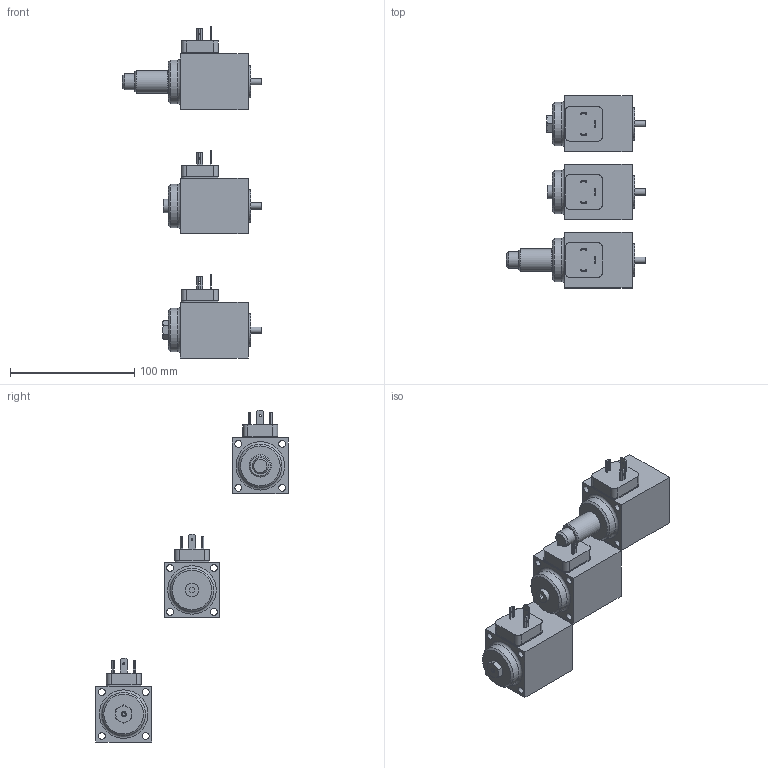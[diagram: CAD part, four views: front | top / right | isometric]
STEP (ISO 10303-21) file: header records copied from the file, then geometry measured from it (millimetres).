
FILE_DESCRIPTION(('Bauteilbeschreibung','HiCAD-Model','HiCAD-STEP-TRANSLATION','Bauteilbeschreibung'),'2;1');
FILE_NAME('K:/STEP_DXF/PI45V.STP','2006-05-12T14:03:25+00:00',('Konstrukteur'),('Konstrukteur Firma GmbH'),'HiCAD3 V1210 STEP 1.6.2005','HiCAD3 V1210','confidential');
FILE_SCHEMA(('AUTOMOTIVE_DESIGN { 1 2 10303 214 0 1 1 1 }'));
Length unit declared in the file: millimetre
Products named in the file (22): PI45V; PI45V_H1; CDAAEE0E; DAB12417; DAB124170; DICHTUNG; A270342B; A1706669; PI45V_HB0; AB38F80E; DAB124171; DAB124172; DICHTUNG0; A17066690; F134825D; PI45V_H6; AC37BFA3; DAB124173; DAB124174; DICHTUNG1; A17066691; CF9A8A47
Assembly tree (21 placements, depth 5):
  PI45V
    PI45V_H1
      CDAAEE0E
        DAB12417
        DAB124170
          DICHTUNG
        A270342B
        A1706669
    PI45V_HB0
      AB38F80E
        DAB124171
        DAB124172
          DICHTUNG0
        A17066690
        F134825D
    PI45V_H6
      AC37BFA3
        DAB124173
        DAB124174
          DICHTUNG1
        A17066691
        CF9A8A47
Bounding box: 112.4 x 155 x 267.5 mm (x, y, z)
Volume: 378026.3 mm3; surface area: 77641.3 mm2
Topology: 21 solids, 21 shells, 341 faces, 797 edges, 538 vertices
Faces by surface type: plane 196, cylinder 113, cone 24, torus 8
Full cylindrical faces by diameter (mm): 1.5 x9, 2.5 x1, 3 x9, 4.2 x1, 4.9 x3, 5.5 x12, 6 x1, 6.8 x5, 8 x6, 9 x3, 11 x1, 12 x3, 13 x1, 15 x3, 18 x1, 26 x3, 35 x3
Entity records: 16120 total; most frequent: CARTESIAN_POINT 2027, DIRECTION 1666, ORIENTED_EDGE 1338, COLOUR_RGB 1022, PRESENTATION_STYLE_ASSIGNMENT 1022, OVER_RIDING_STYLED_ITEM 1010, CURVE_STYLE 669, DRAUGHTING_PRE_DEFINED_CURVE_FONT 669
